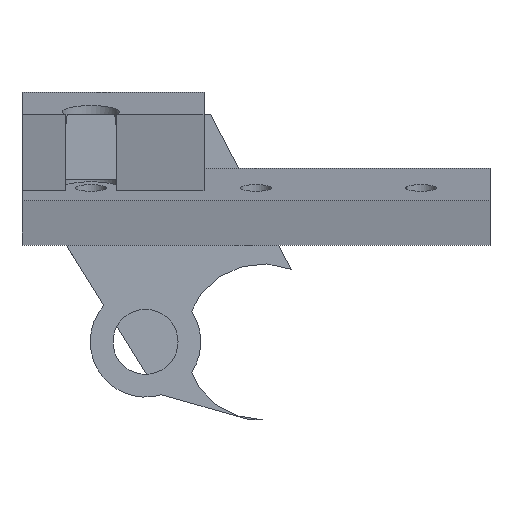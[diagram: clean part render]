
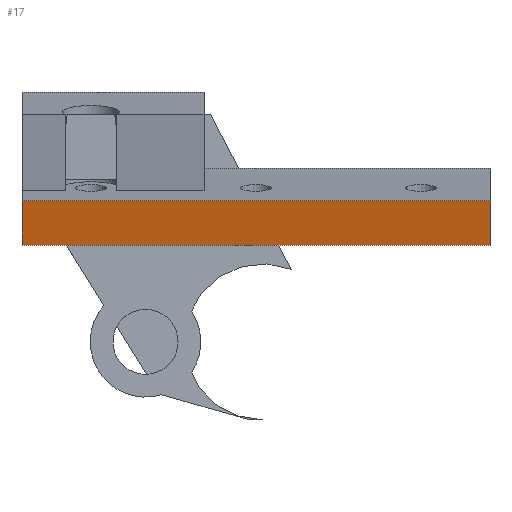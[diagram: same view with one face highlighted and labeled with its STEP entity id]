
A CAD part, left-side view. The second image highlights one B-rep face of the part: STEP entity #17.
In plain terms, the highlighted planar face has unit normal (-0.976, 0, -0.216).
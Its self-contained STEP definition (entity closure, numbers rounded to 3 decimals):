
#17 = ADVANCED_FACE('',(#18),#32,.F.);
#18 = FACE_BOUND('',#19,.F.);
#19 = EDGE_LOOP('',(#20,#55,#83,#111));
#20 = ORIENTED_EDGE('',*,*,#21,.F.);
#21 = EDGE_CURVE('',#22,#24,#26,.T.);
#22 = VERTEX_POINT('',#23);
#23 = CARTESIAN_POINT('',(-69.473,15.,273.898));
#24 = VERTEX_POINT('',#25);
#25 = CARTESIAN_POINT('',(-70.977,15.,280.683));
#26 = SURFACE_CURVE('',#27,(#31,#43),.PCURVE_S1.);
#27 = LINE('',#28,#29);
#28 = CARTESIAN_POINT('',(-69.473,15.,273.898));
#29 = VECTOR('',#30,1.);
#30 = DIRECTION('',(-0.216,0.,0.976));
#31 = PCURVE('',#32,#37);
#32 = PLANE('',#33);
#33 = AXIS2_PLACEMENT_3D('',#34,#35,#36);
#34 = CARTESIAN_POINT('',(-69.473,15.,273.898));
#35 = DIRECTION('',(0.976,0.,0.216));
#36 = DIRECTION('',(-0.216,0.,0.976));
#37 = DEFINITIONAL_REPRESENTATION('',(#38),#42);
#38 = LINE('',#39,#40);
#39 = CARTESIAN_POINT('',(0.,0.));
#40 = VECTOR('',#41,1.);
#41 = DIRECTION('',(1.,0.));
#42 = ( GEOMETRIC_REPRESENTATION_CONTEXT(2) 
PARAMETRIC_REPRESENTATION_CONTEXT() REPRESENTATION_CONTEXT('2D SPACE',''
  ) );
#43 = PCURVE('',#44,#49);
#44 = PLANE('',#45);
#45 = AXIS2_PLACEMENT_3D('',#46,#47,#48);
#46 = CARTESIAN_POINT('',(-69.473,15.,273.898));
#47 = DIRECTION('',(0.,1.,0.));
#48 = DIRECTION('',(-0.216,0.,0.976));
#49 = DEFINITIONAL_REPRESENTATION('',(#50),#54);
#50 = LINE('',#51,#52);
#51 = CARTESIAN_POINT('',(0.,0.));
#52 = VECTOR('',#53,1.);
#53 = DIRECTION('',(1.,0.));
#54 = ( GEOMETRIC_REPRESENTATION_CONTEXT(2) 
PARAMETRIC_REPRESENTATION_CONTEXT() REPRESENTATION_CONTEXT('2D SPACE',''
  ) );
#55 = ORIENTED_EDGE('',*,*,#56,.T.);
#56 = EDGE_CURVE('',#22,#57,#59,.T.);
#57 = VERTEX_POINT('',#58);
#58 = CARTESIAN_POINT('',(-69.473,87.,273.898));
#59 = SURFACE_CURVE('',#60,(#64,#71),.PCURVE_S1.);
#60 = LINE('',#61,#62);
#61 = CARTESIAN_POINT('',(-69.473,15.,273.898));
#62 = VECTOR('',#63,1.);
#63 = DIRECTION('',(0.,1.,0.));
#64 = PCURVE('',#32,#65);
#65 = DEFINITIONAL_REPRESENTATION('',(#66),#70);
#66 = LINE('',#67,#68);
#67 = CARTESIAN_POINT('',(0.,0.));
#68 = VECTOR('',#69,1.);
#69 = DIRECTION('',(0.,-1.));
#70 = ( GEOMETRIC_REPRESENTATION_CONTEXT(2) 
PARAMETRIC_REPRESENTATION_CONTEXT() REPRESENTATION_CONTEXT('2D SPACE',''
  ) );
#71 = PCURVE('',#72,#77);
#72 = PLANE('',#73);
#73 = AXIS2_PLACEMENT_3D('',#74,#75,#76);
#74 = CARTESIAN_POINT('',(-69.473,15.,273.898));
#75 = DIRECTION('',(-0.216,0.,0.976));
#76 = DIRECTION('',(0.976,0.,0.216));
#77 = DEFINITIONAL_REPRESENTATION('',(#78),#82);
#78 = LINE('',#79,#80);
#79 = CARTESIAN_POINT('',(0.,0.));
#80 = VECTOR('',#81,1.);
#81 = DIRECTION('',(0.,1.));
#82 = ( GEOMETRIC_REPRESENTATION_CONTEXT(2) 
PARAMETRIC_REPRESENTATION_CONTEXT() REPRESENTATION_CONTEXT('2D SPACE',''
  ) );
#83 = ORIENTED_EDGE('',*,*,#84,.T.);
#84 = EDGE_CURVE('',#57,#85,#87,.T.);
#85 = VERTEX_POINT('',#86);
#86 = CARTESIAN_POINT('',(-70.977,87.,280.683));
#87 = SURFACE_CURVE('',#88,(#92,#99),.PCURVE_S1.);
#88 = LINE('',#89,#90);
#89 = CARTESIAN_POINT('',(-69.473,87.,273.898));
#90 = VECTOR('',#91,1.);
#91 = DIRECTION('',(-0.216,0.,0.976));
#92 = PCURVE('',#32,#93);
#93 = DEFINITIONAL_REPRESENTATION('',(#94),#98);
#94 = LINE('',#95,#96);
#95 = CARTESIAN_POINT('',(0.,-72.));
#96 = VECTOR('',#97,1.);
#97 = DIRECTION('',(1.,0.));
#98 = ( GEOMETRIC_REPRESENTATION_CONTEXT(2) 
PARAMETRIC_REPRESENTATION_CONTEXT() REPRESENTATION_CONTEXT('2D SPACE',''
  ) );
#99 = PCURVE('',#100,#105);
#100 = PLANE('',#101);
#101 = AXIS2_PLACEMENT_3D('',#102,#103,#104);
#102 = CARTESIAN_POINT('',(-69.473,87.,273.898));
#103 = DIRECTION('',(0.,1.,0.));
#104 = DIRECTION('',(-0.216,0.,0.976));
#105 = DEFINITIONAL_REPRESENTATION('',(#106),#110);
#106 = LINE('',#107,#108);
#107 = CARTESIAN_POINT('',(0.,0.));
#108 = VECTOR('',#109,1.);
#109 = DIRECTION('',(1.,0.));
#110 = ( GEOMETRIC_REPRESENTATION_CONTEXT(2) 
PARAMETRIC_REPRESENTATION_CONTEXT() REPRESENTATION_CONTEXT('2D SPACE',''
  ) );
#111 = ORIENTED_EDGE('',*,*,#112,.F.);
#112 = EDGE_CURVE('',#24,#85,#113,.T.);
#113 = SURFACE_CURVE('',#114,(#118,#125),.PCURVE_S1.);
#114 = LINE('',#115,#116);
#115 = CARTESIAN_POINT('',(-70.977,15.,280.683));
#116 = VECTOR('',#117,1.);
#117 = DIRECTION('',(0.,1.,0.));
#118 = PCURVE('',#32,#119);
#119 = DEFINITIONAL_REPRESENTATION('',(#120),#124);
#120 = LINE('',#121,#122);
#121 = CARTESIAN_POINT('',(6.95,0.));
#122 = VECTOR('',#123,1.);
#123 = DIRECTION('',(0.,-1.));
#124 = ( GEOMETRIC_REPRESENTATION_CONTEXT(2) 
PARAMETRIC_REPRESENTATION_CONTEXT() REPRESENTATION_CONTEXT('2D SPACE',''
  ) );
#125 = PCURVE('',#126,#131);
#126 = PLANE('',#127);
#127 = AXIS2_PLACEMENT_3D('',#128,#129,#130);
#128 = CARTESIAN_POINT('',(-70.977,15.,280.683));
#129 = DIRECTION('',(-0.216,0.,0.976));
#130 = DIRECTION('',(0.976,0.,0.216));
#131 = DEFINITIONAL_REPRESENTATION('',(#132),#136);
#132 = LINE('',#133,#134);
#133 = CARTESIAN_POINT('',(0.,0.));
#134 = VECTOR('',#135,1.);
#135 = DIRECTION('',(0.,1.));
#136 = ( GEOMETRIC_REPRESENTATION_CONTEXT(2) 
PARAMETRIC_REPRESENTATION_CONTEXT() REPRESENTATION_CONTEXT('2D SPACE',''
  ) );
